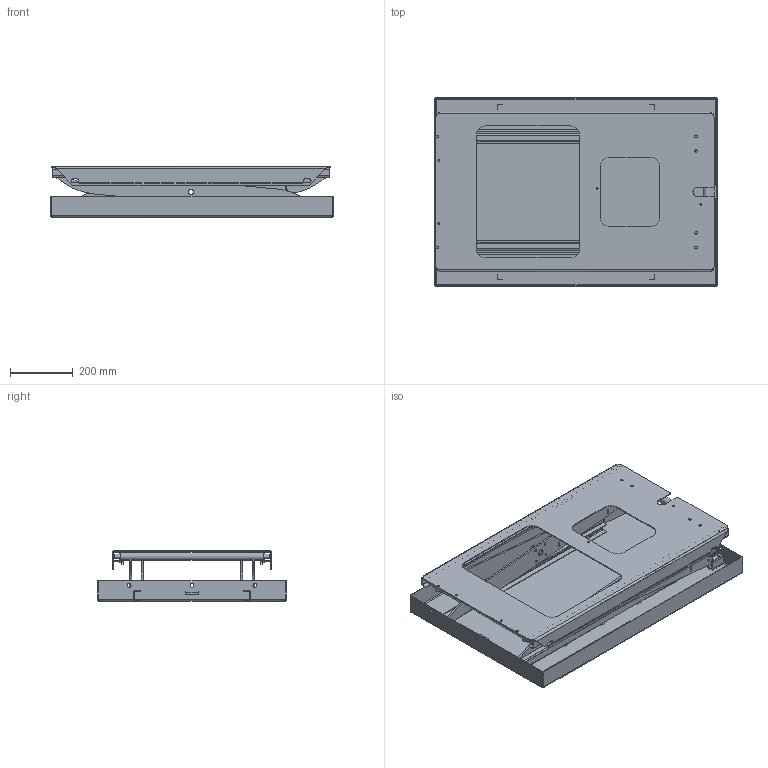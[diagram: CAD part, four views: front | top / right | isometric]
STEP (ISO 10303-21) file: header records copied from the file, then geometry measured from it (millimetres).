
FILE_DESCRIPTION(/* description */ ('CR 500 without power pack'),/* implementation_level */ '2;1');
FILE_NAME(/* name */ 'C:\Autodesk_VaultWork\Ritningar\36473_Collapsed.stp',/* time_stamp */ '2019-05-15T08:22:46+02:00',/* author */ ('johso'),/* organization */ (''),/* preprocessor_version */ 'ST-DEVELOPER v16.5',/* originating_system */ 'Autodesk Inventor 2017',/* authorisation */ '');
FILE_SCHEMA (('AUTOMOTIVE_DESIGN { 1 0 10303 214 3 1 1 }'));
Length unit declared in the file: millimetre
Products named in the file (19): 36461.tmp; 32951; 34917; 32953; 44071; 35126; 600549; 35125-1; 85788 - 362; 600553; 35125-2; 43807; 85788 - 434; 32957; 32957-1; 44471; 44470; 42394; 33508
Assembly tree (27 placements, depth 4):
  36461.tmp
    32951
      34917
      32953  x2
      44071  x2
    35126
      600549
        35125-1  x2
        85788 - 362
        43807
      600553
        35125-2  x2
        43807
        85788 - 434
    32957
      32957-1
      44471  x2
      44470  x2
      42394  x2
    33508  x2
Bounding box: 900 x 600 x 160 mm (x, y, z)
Volume: 5562238.8 mm3; surface area: 3247784.4 mm2
Topology: 22 solids, 22 shells, 718 faces, 1881 edges, 1239 vertices
Faces by surface type: plane 423, cylinder 283, bspline 12
Full cylindrical faces by diameter (mm): 6 x42, 6.5 x2, 8.5 x6, 10.5 x4, 12.5 x6, 14 x6, 14.5 x4, 16.2 x2, 20.2 x2, 24 x2
Entity records: 17820 total; most frequent: CARTESIAN_POINT 3669, DIRECTION 2836, ORIENTED_EDGE 2724, EDGE_CURVE 1362, LINE 986, VECTOR 986, VERTEX_POINT 926, AXIS2_PLACEMENT_3D 925
